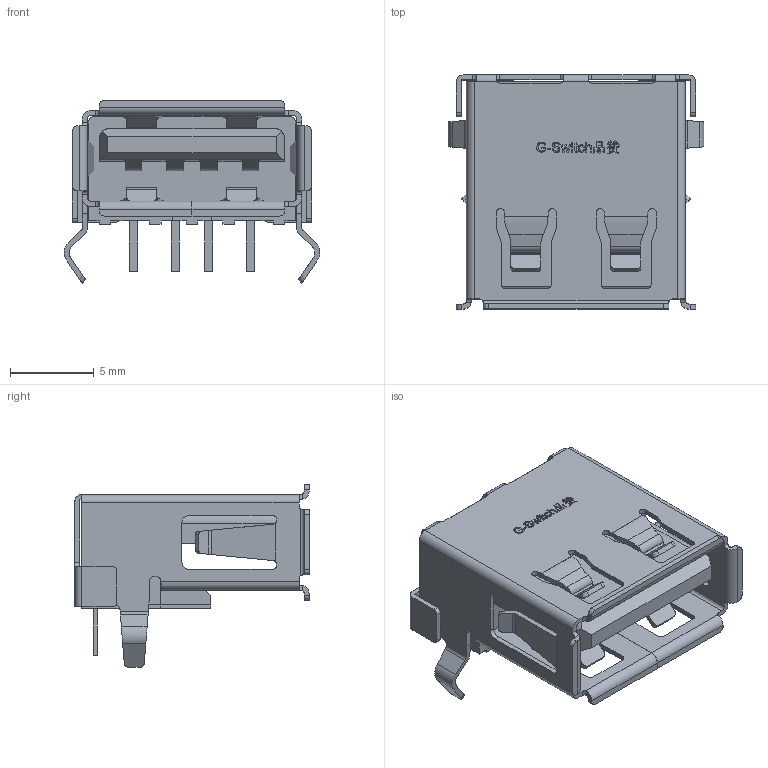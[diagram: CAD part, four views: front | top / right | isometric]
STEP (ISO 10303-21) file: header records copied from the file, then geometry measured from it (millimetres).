
FILE_DESCRIPTION (( 'STEP AP203' ), '1' );
FILE_NAME ('GT-2A031A-S00G000.dwg.STEP', '2025-01-03T09:52:42', ( '' ), ( '' ), 'SwSTEP 2.0', 'SolidWorks 2023', '' );
FILE_SCHEMA (( 'CONFIG_CONTROL_DESIGN' ));
Length unit declared in the file: millimetre
Products named in the file (4): MSBR-2.stp; GT-2A031A-S00G000.dwg; changcheng-a_asm.stp; MSBR-1.stp
Assembly tree (3 placements, depth 3):
  GT-2A031A-S00G000.dwg
    changcheng-a_asm.stp
      MSBR-2.stp
      MSBR-1.stp
Bounding box: 15.28 x 14 x 10.92 mm (x, y, z)
Volume: 647.5 mm3; surface area: 1865.2 mm2
Topology: 2 solids, 2 shells, 884 faces, 2569 edges, 1702 vertices
Faces by surface type: plane 576, cylinder 234, bspline 74
Entity records: 33636 total; most frequent: CARTESIAN_POINT 10321, ORIENTED_EDGE 5138, DIRECTION 4259, EDGE_CURVE 2569, VECTOR 1873, LINE 1873, VERTEX_POINT 1702, AXIS2_PLACEMENT_3D 1193
